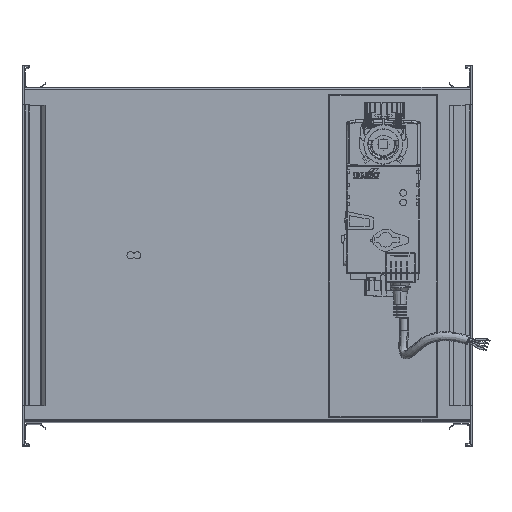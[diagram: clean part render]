
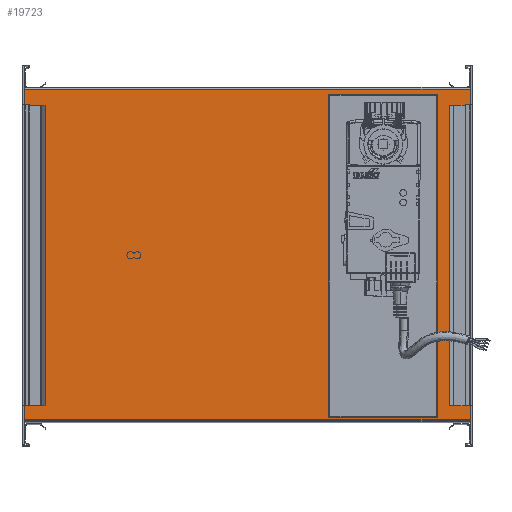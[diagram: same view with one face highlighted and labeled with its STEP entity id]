
A CAD part, top view. The second image highlights one B-rep face of the part: STEP entity #19723.
In plain terms, the highlighted planar face has unit normal (0, 0, 1).
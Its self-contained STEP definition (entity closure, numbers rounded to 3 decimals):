
#269 = PLANE ( 'NONE',  #22945 ) ;
#586 = CARTESIAN_POINT ( 'NONE',  ( 126.762, 157.652, 1400. ) ) ;
#710 = DIRECTION ( 'NONE',  ( 1., 0., 0. ) ) ;
#833 = VECTOR ( 'NONE', #17558, 1000. ) ;
#1621 = EDGE_CURVE ( 'NONE', #70386, #34806, #80835, .T. ) ;
#2869 = ORIENTED_EDGE ( 'NONE', *, *, #6534, .F. ) ;
#3265 = VERTEX_POINT ( 'NONE', #31688 ) ;
#4640 = EDGE_CURVE ( 'NONE', #3265, #86478, #31589, .T. ) ;
#6534 = EDGE_CURVE ( 'NONE', #34806, #31352, #9472, .T. ) ;
#6655 = CARTESIAN_POINT ( 'NONE',  ( 28.762, -132.348, 1400. ) ) ;
#7487 = CARTESIAN_POINT ( 'NONE',  ( 126.762, 157.652, 1400. ) ) ;
#8008 = ORIENTED_EDGE ( 'NONE', *, *, #1621, .F. ) ;
#9472 = LINE ( 'NONE', #55078, #38472 ) ;
#14765 = LINE ( 'NONE', #15685, #63202 ) ;
#15685 = CARTESIAN_POINT ( 'NONE',  ( -244.423, -133.848, 1400. ) ) ;
#17119 = DIRECTION ( 'NONE',  ( 1., 0., 0. ) ) ;
#17558 = DIRECTION ( 'NONE',  ( 0., -1., 0. ) ) ;
#17904 = VECTOR ( 'NONE', #83855, 1000. ) ;
#19653 = EDGE_CURVE ( 'NONE', #43767, #3265, #14765, .T. ) ;
#19723 = ADVANCED_FACE ( 'NONE', ( #42326, #64272 ), #269, .T. ) ;
#21878 = LINE ( 'NONE', #48490, #23560 ) ;
#22898 = CARTESIAN_POINT ( 'NONE',  ( 28.762, -132.348, 1400. ) ) ;
#22945 = AXIS2_PLACEMENT_3D ( 'NONE', #28761, #50228, #66580 ) ;
#23317 = VECTOR ( 'NONE', #35153, 1000. ) ;
#23359 = CARTESIAN_POINT ( 'NONE',  ( 155.577, -133.848, 1400. ) ) ;
#23560 = VECTOR ( 'NONE', #50346, 1000. ) ;
#23686 = CARTESIAN_POINT ( 'NONE',  ( -244.423, -133.848, 1400. ) ) ;
#23735 = CARTESIAN_POINT ( 'NONE',  ( -244.423, 162.152, 1400. ) ) ;
#24896 = EDGE_CURVE ( 'NONE', #43767, #64501, #42785, .T. ) ;
#27803 = VECTOR ( 'NONE', #17119, 1000. ) ;
#28186 = LINE ( 'NONE', #586, #17904 ) ;
#28761 = CARTESIAN_POINT ( 'NONE',  ( -244.423, -133.848, 1400. ) ) ;
#31352 = VERTEX_POINT ( 'NONE', #60077 ) ;
#31589 = LINE ( 'NONE', #23686, #27803 ) ;
#31688 = CARTESIAN_POINT ( 'NONE',  ( -244.423, -133.848, 1400. ) ) ;
#34806 = VERTEX_POINT ( 'NONE', #22898 ) ;
#35153 = DIRECTION ( 'NONE',  ( 0., -1., 0. ) ) ;
#36626 = ORIENTED_EDGE ( 'NONE', *, *, #19653, .T. ) ;
#37184 = DIRECTION ( 'NONE',  ( 0., -1., 0. ) ) ;
#38472 = VECTOR ( 'NONE', #68188, 1000. ) ;
#39702 = EDGE_CURVE ( 'NONE', #31352, #75397, #21878, .T. ) ;
#42326 = FACE_BOUND ( 'NONE', #59266, .T. ) ;
#42785 = LINE ( 'NONE', #64723, #80858 ) ;
#43767 = VERTEX_POINT ( 'NONE', #23735 ) ;
#47309 = ORIENTED_EDGE ( 'NONE', *, *, #86683, .F. ) ;
#48490 = CARTESIAN_POINT ( 'NONE',  ( 126.762, -132.348, 1400. ) ) ;
#50228 = DIRECTION ( 'NONE',  ( 0., 0., 1. ) ) ;
#50346 = DIRECTION ( 'NONE',  ( 0., 1., 0. ) ) ;
#51182 = CARTESIAN_POINT ( 'NONE',  ( 28.762, 157.652, 1400. ) ) ;
#55078 = CARTESIAN_POINT ( 'NONE',  ( 126.762, -132.348, 1400. ) ) ;
#57893 = EDGE_CURVE ( 'NONE', #64501, #86478, #88168, .T. ) ;
#59131 = CARTESIAN_POINT ( 'NONE',  ( 155.577, -133.848, 1400. ) ) ;
#59266 = EDGE_LOOP ( 'NONE', ( #2869, #8008, #47309, #60310 ) ) ;
#59936 = ORIENTED_EDGE ( 'NONE', *, *, #24896, .F. ) ;
#60077 = CARTESIAN_POINT ( 'NONE',  ( 126.762, -132.348, 1400. ) ) ;
#60310 = ORIENTED_EDGE ( 'NONE', *, *, #39702, .F. ) ;
#63202 = VECTOR ( 'NONE', #37184, 1000. ) ;
#64272 = FACE_OUTER_BOUND ( 'NONE', #76644, .T. ) ;
#64501 = VERTEX_POINT ( 'NONE', #66315 ) ;
#64723 = CARTESIAN_POINT ( 'NONE',  ( -244.423, 162.152, 1400. ) ) ;
#66315 = CARTESIAN_POINT ( 'NONE',  ( 155.577, 162.152, 1400. ) ) ;
#66580 = DIRECTION ( 'NONE',  ( 1., 0., 0. ) ) ;
#67860 = ORIENTED_EDGE ( 'NONE', *, *, #4640, .T. ) ;
#68188 = DIRECTION ( 'NONE',  ( 1., 0., 0. ) ) ;
#70386 = VERTEX_POINT ( 'NONE', #51182 ) ;
#75397 = VERTEX_POINT ( 'NONE', #7487 ) ;
#76644 = EDGE_LOOP ( 'NONE', ( #84735, #59936, #36626, #67860 ) ) ;
#80835 = LINE ( 'NONE', #6655, #23317 ) ;
#80858 = VECTOR ( 'NONE', #710, 1000. ) ;
#83855 = DIRECTION ( 'NONE',  ( -1., 0., 0. ) ) ;
#84735 = ORIENTED_EDGE ( 'NONE', *, *, #57893, .F. ) ;
#86478 = VERTEX_POINT ( 'NONE', #23359 ) ;
#86683 = EDGE_CURVE ( 'NONE', #75397, #70386, #28186, .T. ) ;
#88168 = LINE ( 'NONE', #59131, #833 ) ;
